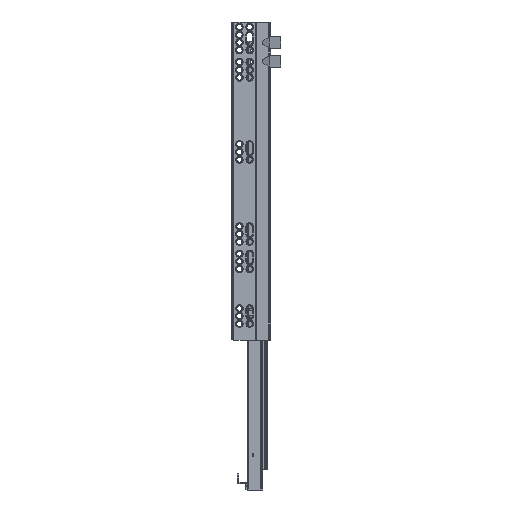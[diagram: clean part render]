
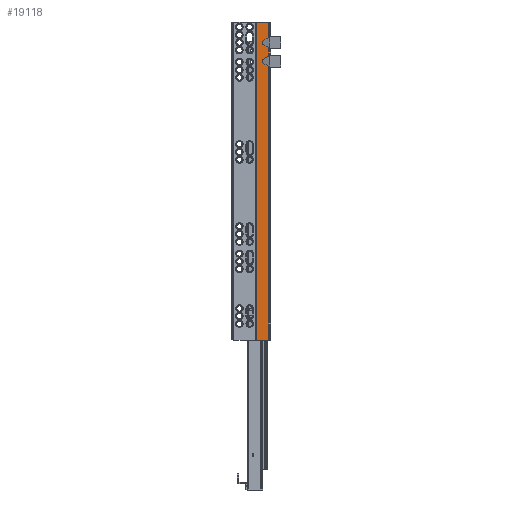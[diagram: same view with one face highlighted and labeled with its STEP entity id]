
A CAD part, left-side view. The second image highlights one B-rep face of the part: STEP entity #19118.
In plain terms, the highlighted planar face has unit normal (-1, 0, 0) as drawn and (1, 0, 0) by its records, which use the part's own axes.
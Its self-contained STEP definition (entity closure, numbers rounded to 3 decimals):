
#622 = LINE ( 'NONE', #24999, #4021 ) ;
#828 = VERTEX_POINT ( 'NONE', #35630 ) ;
#1005 = CARTESIAN_POINT ( 'NONE',  ( 35.7, -9.268, 29.564 ) ) ;
#1359 = CARTESIAN_POINT ( 'NONE',  ( 35.7, 4.559, 541. ) ) ;
#1769 = ORIENTED_EDGE ( 'NONE', *, *, #53851, .T. ) ;
#1790 = DIRECTION ( 'NONE',  ( 0., 1., 0. ) ) ;
#2215 = EDGE_CURVE ( 'NONE', #45978, #28121, #33045, .T. ) ;
#2415 = LINE ( 'NONE', #29516, #44346 ) ;
#2509 = VERTEX_POINT ( 'NONE', #52176 ) ;
#2713 = DIRECTION ( 'NONE',  ( 0., -0.902, 0.432 ) ) ;
#3309 = VERTEX_POINT ( 'NONE', #4877 ) ;
#4021 = VECTOR ( 'NONE', #53140, 1000. ) ;
#4086 = LINE ( 'NONE', #13939, #21015 ) ;
#4312 = EDGE_CURVE ( 'NONE', #3309, #45946, #622, .T. ) ;
#4345 = EDGE_CURVE ( 'NONE', #45978, #828, #41469, .T. ) ;
#4625 = LINE ( 'NONE', #29023, #43020 ) ;
#4877 = CARTESIAN_POINT ( 'NONE',  ( 35.7, -9.9, 40.134 ) ) ;
#5826 = LINE ( 'NONE', #37501, #40527 ) ;
#7311 = DIRECTION ( 'NONE',  ( 0., 0., -1. ) ) ;
#9378 = CARTESIAN_POINT ( 'NONE',  ( 35.7, -6.499, 28.238 ) ) ;
#9841 = ORIENTED_EDGE ( 'NONE', *, *, #4345, .T. ) ;
#9887 = ORIENTED_EDGE ( 'NONE', *, *, #47437, .F. ) ;
#11370 = EDGE_CURVE ( 'NONE', #2509, #41245, #51454, .T. ) ;
#11471 = ORIENTED_EDGE ( 'NONE', *, *, #4312, .F. ) ;
#11685 = CARTESIAN_POINT ( 'NONE',  ( 35.7, -3.671, 46. ) ) ;
#11903 = EDGE_CURVE ( 'NONE', #3309, #54939, #36423, .T. ) ;
#11946 = CARTESIAN_POINT ( 'NONE',  ( 35.7, -9.9, 541. ) ) ;
#12542 = VECTOR ( 'NONE', #49786, 1000. ) ;
#12920 =( BOUNDED_CURVE ( )  B_SPLINE_CURVE ( 3, ( #50563, #18883, #43325, #11685 ),
 .UNSPECIFIED., .F., .F. ) 
 B_SPLINE_CURVE_WITH_KNOTS ( ( 4, 4 ),
 ( 5.201, 6.283 ),
 .UNSPECIFIED. ) 
 CURVE ( )  GEOMETRIC_REPRESENTATION_ITEM ( )  RATIONAL_B_SPLINE_CURVE ( ( 1., 0.905, 0.905, 1. ) ) 
 REPRESENTATION_ITEM ( '' )  );
#13939 = CARTESIAN_POINT ( 'NONE',  ( 35.7, 4.6, 0. ) ) ;
#14117 = VERTEX_POINT ( 'NONE', #43888 ) ;
#14661 = CARTESIAN_POINT ( 'NONE',  ( 35.7, -6.499, 28.238 ) ) ;
#15417 = EDGE_CURVE ( 'NONE', #35568, #40076, #2415, .T. ) ;
#16452 = CARTESIAN_POINT ( 'NONE',  ( 35.7, -6.499, 50.238 ) ) ;
#16548 = CARTESIAN_POINT ( 'NONE',  ( 35.7, -3.671, 25.822 ) ) ;
#16637 = DIRECTION ( 'NONE',  ( 0., 0., -1. ) ) ;
#17047 = CARTESIAN_POINT ( 'NONE',  ( 35.7, 4.6, 372. ) ) ;
#17740 = CARTESIAN_POINT ( 'NONE',  ( 35.7, -4.713, 20.617 ) ) ;
#17744 = CARTESIAN_POINT ( 'NONE',  ( 35.7, -3.671, 46. ) ) ;
#18883 = CARTESIAN_POINT ( 'NONE',  ( 35.7, -4.713, 42.617 ) ) ;
#19115 = CARTESIAN_POINT ( 'NONE',  ( 35.7, -3.671, 46. ) ) ;
#19118 = ADVANCED_FACE ( 'NONE', ( #55912 ), #43316, .T. ) ;
#19238 = EDGE_CURVE ( 'NONE', #24922, #2509, #49121, .T. ) ;
#20546 = CARTESIAN_POINT ( 'NONE',  ( 35.7, 4.559, 372. ) ) ;
#21015 = VECTOR ( 'NONE', #38427, 1000. ) ;
#24644 =( BOUNDED_CURVE ( )  B_SPLINE_CURVE ( 3, ( #48183, #16548, #40977, #9378 ),
 .UNSPECIFIED., .F., .F. ) 
 B_SPLINE_CURVE_WITH_KNOTS ( ( 4, 4 ),
 ( 0., 1.082 ),
 .UNSPECIFIED. ) 
 CURVE ( )  GEOMETRIC_REPRESENTATION_ITEM ( )  RATIONAL_B_SPLINE_CURVE ( ( 1., 0.905, 0.905, 1. ) ) 
 REPRESENTATION_ITEM ( '' )  );
#24922 = VERTEX_POINT ( 'NONE', #17744 ) ;
#24999 = CARTESIAN_POINT ( 'NONE',  ( 35.7, -5.936, 42.031 ) ) ;
#25176 = ORIENTED_EDGE ( 'NONE', *, *, #11903, .T. ) ;
#25730 = DIRECTION ( 'NONE',  ( 0., 0., -1. ) ) ;
#25890 = EDGE_CURVE ( 'NONE', #45946, #24922, #12920, .T. ) ;
#26072 = ORIENTED_EDGE ( 'NONE', *, *, #19238, .F. ) ;
#26149 = DIRECTION ( 'NONE',  ( 1., 0., 0. ) ) ;
#26620 =( BOUNDED_CURVE ( )  B_SPLINE_CURVE ( 3, ( #27723, #17740, #49404, #39485 ),
 .UNSPECIFIED., .F., .F. ) 
 B_SPLINE_CURVE_WITH_KNOTS ( ( 4, 4 ),
 ( 5.201, 6.283 ),
 .UNSPECIFIED. ) 
 CURVE ( )  GEOMETRIC_REPRESENTATION_ITEM ( )  RATIONAL_B_SPLINE_CURVE ( ( 1., 0.905, 0.905, 1. ) ) 
 REPRESENTATION_ITEM ( '' )  );
#27059 = CARTESIAN_POINT ( 'NONE',  ( 35.7, -9.268, 51.564 ) ) ;
#27723 = CARTESIAN_POINT ( 'NONE',  ( 35.7, -6.499, 19.762 ) ) ;
#27756 = ORIENTED_EDGE ( 'NONE', *, *, #11370, .F. ) ;
#28121 = VERTEX_POINT ( 'NONE', #44218 ) ;
#29023 = CARTESIAN_POINT ( 'NONE',  ( 35.7, -9.9, 541. ) ) ;
#29152 = ORIENTED_EDGE ( 'NONE', *, *, #37314, .F. ) ;
#29371 = EDGE_CURVE ( 'NONE', #35061, #37469, #24644, .T. ) ;
#29516 = CARTESIAN_POINT ( 'NONE',  ( 35.7, -5.936, 20.031 ) ) ;
#29698 = CARTESIAN_POINT ( 'NONE',  ( 35.7, -9.9, 29.866 ) ) ;
#30414 = EDGE_LOOP ( 'NONE', ( #9841, #55238, #27756, #26072, #37288, #11471, #25176, #29152, #43974, #9887, #30988, #45421, #1769, #54408 ) ) ;
#30988 = ORIENTED_EDGE ( 'NONE', *, *, #15417, .F. ) ;
#32059 = VECTOR ( 'NONE', #43591, 1000. ) ;
#32710 = LINE ( 'NONE', #1005, #12542 ) ;
#32734 = EDGE_CURVE ( 'NONE', #828, #41245, #4625, .T. ) ;
#33045 = LINE ( 'NONE', #1359, #48928 ) ;
#34353 = CARTESIAN_POINT ( 'NONE',  ( 35.7, -6.499, 41.762 ) ) ;
#34476 = CARTESIAN_POINT ( 'NONE',  ( 35.7, -3.671, 24. ) ) ;
#35061 = VERTEX_POINT ( 'NONE', #34476 ) ;
#35179 = CARTESIAN_POINT ( 'NONE',  ( 35.7, -6.499, 19.762 ) ) ;
#35568 = VERTEX_POINT ( 'NONE', #50574 ) ;
#35630 = CARTESIAN_POINT ( 'NONE',  ( 35.7, -9.9, 372. ) ) ;
#36423 = LINE ( 'NONE', #11946, #32059 ) ;
#37288 = ORIENTED_EDGE ( 'NONE', *, *, #25890, .F. ) ;
#37314 = EDGE_CURVE ( 'NONE', #37469, #54939, #32710, .T. ) ;
#37469 = VERTEX_POINT ( 'NONE', #14661 ) ;
#37501 = CARTESIAN_POINT ( 'NONE',  ( 35.7, -9.9, 541. ) ) ;
#37619 = CARTESIAN_POINT ( 'NONE',  ( 35.7, -9.9, 51.866 ) ) ;
#38427 = DIRECTION ( 'NONE',  ( 0., 1., 0. ) ) ;
#39485 = CARTESIAN_POINT ( 'NONE',  ( 35.7, -3.671, 24. ) ) ;
#39666 = VECTOR ( 'NONE', #2713, 1000. ) ;
#40076 = VERTEX_POINT ( 'NONE', #35179 ) ;
#40527 = VECTOR ( 'NONE', #16637, 1000. ) ;
#40875 = CARTESIAN_POINT ( 'NONE',  ( 35.7, -4.713, 49.383 ) ) ;
#40977 = CARTESIAN_POINT ( 'NONE',  ( 35.7, -4.713, 27.383 ) ) ;
#41245 = VERTEX_POINT ( 'NONE', #37619 ) ;
#41469 = LINE ( 'NONE', #17047, #47689 ) ;
#43020 = VECTOR ( 'NONE', #7311, 1000. ) ;
#43316 = PLANE ( 'NONE',  #46641 ) ;
#43325 = CARTESIAN_POINT ( 'NONE',  ( 35.7, -3.671, 44.178 ) ) ;
#43591 = DIRECTION ( 'NONE',  ( 0., 0., -1. ) ) ;
#43888 = CARTESIAN_POINT ( 'NONE',  ( 35.7, -9.9, 0. ) ) ;
#43974 = ORIENTED_EDGE ( 'NONE', *, *, #29371, .F. ) ;
#44218 = CARTESIAN_POINT ( 'NONE',  ( 35.7, 4.559, 0. ) ) ;
#44346 = VECTOR ( 'NONE', #53865, 1000. ) ;
#45421 = ORIENTED_EDGE ( 'NONE', *, *, #53446, .T. ) ;
#45946 = VERTEX_POINT ( 'NONE', #34353 ) ;
#45978 = VERTEX_POINT ( 'NONE', #20546 ) ;
#46641 = AXIS2_PLACEMENT_3D ( 'NONE', #50554, #26149, #1790 ) ;
#47437 = EDGE_CURVE ( 'NONE', #40076, #35061, #26620, .T. ) ;
#47689 = VECTOR ( 'NONE', #48699, 1000. ) ;
#48183 = CARTESIAN_POINT ( 'NONE',  ( 35.7, -3.671, 24. ) ) ;
#48699 = DIRECTION ( 'NONE',  ( 0., -1., 0. ) ) ;
#48928 = VECTOR ( 'NONE', #25730, 1000. ) ;
#49121 =( BOUNDED_CURVE ( )  B_SPLINE_CURVE ( 3, ( #19115, #50792, #40875, #16452 ),
 .UNSPECIFIED., .F., .F. ) 
 B_SPLINE_CURVE_WITH_KNOTS ( ( 4, 4 ),
 ( 0., 1.082 ),
 .UNSPECIFIED. ) 
 CURVE ( )  GEOMETRIC_REPRESENTATION_ITEM ( )  RATIONAL_B_SPLINE_CURVE ( ( 1., 0.905, 0.905, 1. ) ) 
 REPRESENTATION_ITEM ( '' )  );
#49404 = CARTESIAN_POINT ( 'NONE',  ( 35.7, -3.671, 22.178 ) ) ;
#49786 = DIRECTION ( 'NONE',  ( 0., -0.902, 0.432 ) ) ;
#50554 = CARTESIAN_POINT ( 'NONE',  ( 35.7, 4.6, 541. ) ) ;
#50563 = CARTESIAN_POINT ( 'NONE',  ( 35.7, -6.499, 41.762 ) ) ;
#50574 = CARTESIAN_POINT ( 'NONE',  ( 35.7, -9.9, 18.134 ) ) ;
#50792 = CARTESIAN_POINT ( 'NONE',  ( 35.7, -3.671, 47.822 ) ) ;
#51454 = LINE ( 'NONE', #27059, #39666 ) ;
#52176 = CARTESIAN_POINT ( 'NONE',  ( 35.7, -6.499, 50.238 ) ) ;
#53140 = DIRECTION ( 'NONE',  ( 0., 0.902, 0.432 ) ) ;
#53446 = EDGE_CURVE ( 'NONE', #35568, #14117, #5826, .T. ) ;
#53851 = EDGE_CURVE ( 'NONE', #14117, #28121, #4086, .T. ) ;
#53865 = DIRECTION ( 'NONE',  ( 0., 0.902, 0.432 ) ) ;
#54408 = ORIENTED_EDGE ( 'NONE', *, *, #2215, .F. ) ;
#54939 = VERTEX_POINT ( 'NONE', #29698 ) ;
#55238 = ORIENTED_EDGE ( 'NONE', *, *, #32734, .T. ) ;
#55912 = FACE_OUTER_BOUND ( 'NONE', #30414, .T. ) ;
